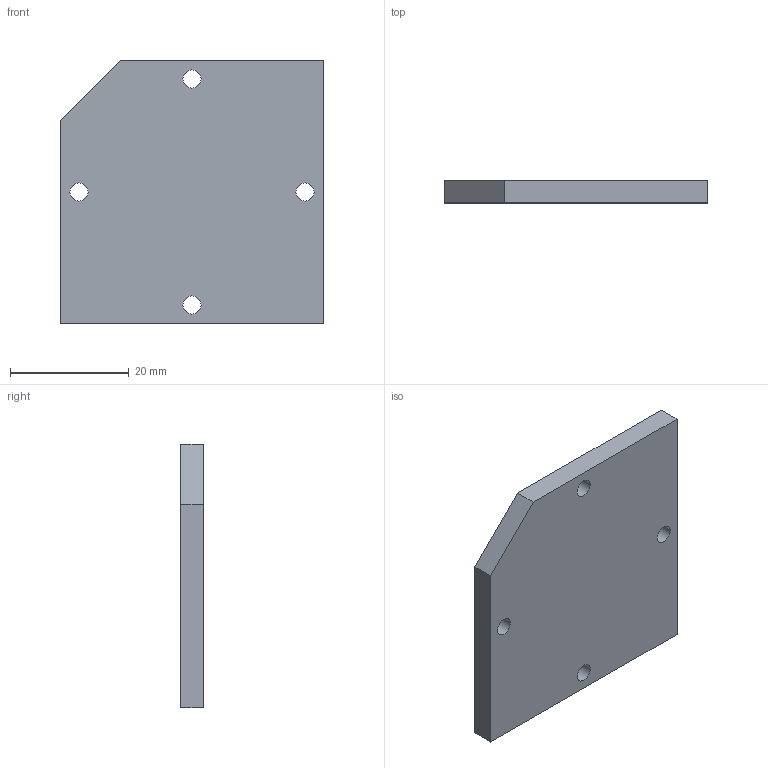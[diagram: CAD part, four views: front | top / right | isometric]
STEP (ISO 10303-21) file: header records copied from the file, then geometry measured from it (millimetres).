
FILE_DESCRIPTION(('', 'CAx-IF Rec.Pracs.---Representation and Presentation of Product Manufacturing Information (PMI)---4.0---2014-10-13'),'2;1');
FILE_NAME('C:/Users/JacobDiepeveen/OneDrive - Luminos/Documents/Jacob/CAD/PT Files/PT0463 Vacuum Part Holder Unification/solids/web/Spacer Plate.STP', '2024-08-28T16:13:40',('JD'), ('Luminos'), 'Kubotek Kosmos Version 5.0.12905.12905', 'KeyCreator Pro', '');
FILE_SCHEMA(('AP242_MANAGED_MODEL_BASED_3D_ENGINEERING_MIM_LF { 1 0 10303 442 4 1 4 }'));
Length unit declared in the file: inch
Bounding box: 44.45 x 3.74 x 44.45 mm (x, y, z)
Volume: 7087.3 mm3; surface area: 4576 mm2
Topology: 1 solids, 1 shells, 11 faces, 27 edges, 18 vertices
Faces by surface type: plane 7, cylinder 4
Full cylindrical faces by diameter (mm): 3.048 x4
Entity records: 454 total; most frequent: CARTESIAN_POINT 60, DIRECTION 59, ORIENTED_EDGE 54, GENERAL_PROPERTY 35, EDGE_CURVE 27, AXIS2_PLACEMENT_3D 20, VECTOR 19, LINE 19
